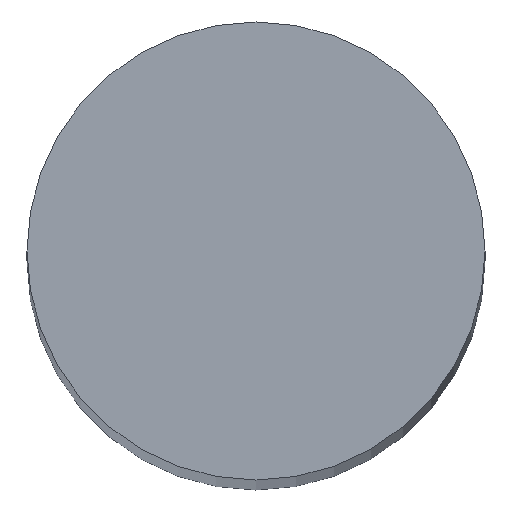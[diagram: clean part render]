
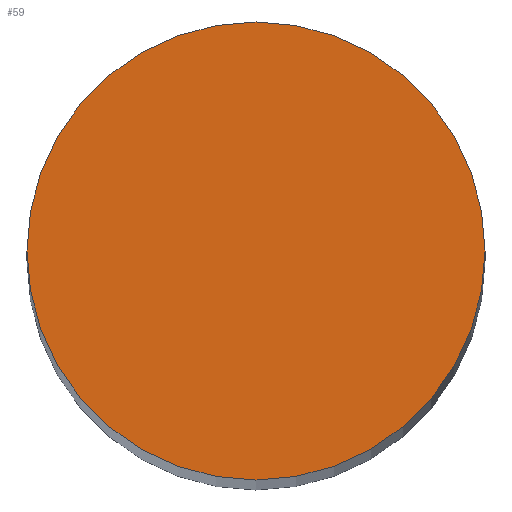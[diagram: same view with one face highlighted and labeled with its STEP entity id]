
A CAD part, top view. The second image highlights one B-rep face of the part: STEP entity #59.
In plain terms, the highlighted planar face has unit normal (0, 0, 1).
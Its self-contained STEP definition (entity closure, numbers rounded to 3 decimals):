
#24 = VERTEX_POINT('',#25);
#25 = CARTESIAN_POINT('',(4.,0.,99.95));
#31 = EDGE_CURVE('',#24,#24,#32,.T.);
#32 = CIRCLE('',#33,4.);
#33 = AXIS2_PLACEMENT_3D('',#34,#35,#36);
#34 = CARTESIAN_POINT('',(0.,0.,99.95));
#35 = DIRECTION('',(0.,0.,1.));
#36 = DIRECTION('',(1.,0.,0.));
#59 = ADVANCED_FACE('',(#60),#63,.T.);
#60 = FACE_BOUND('',#61,.T.);
#61 = EDGE_LOOP('',(#62));
#62 = ORIENTED_EDGE('',*,*,#31,.T.);
#63 = PLANE('',#64);
#64 = AXIS2_PLACEMENT_3D('',#65,#66,#67);
#65 = CARTESIAN_POINT('',(0.,0.,99.95)
  );
#66 = DIRECTION('',(0.,0.,1.));
#67 = DIRECTION('',(1.,0.,0.));
